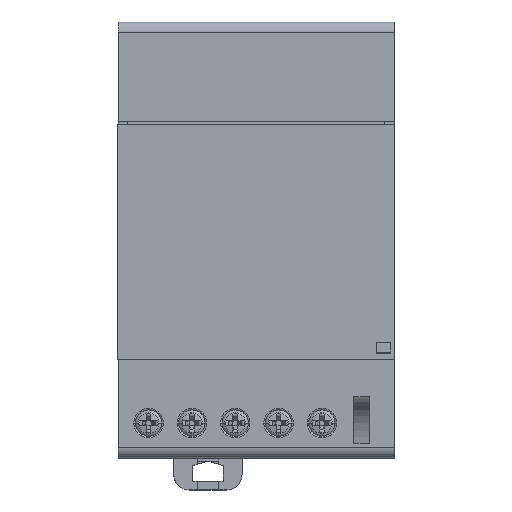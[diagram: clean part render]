
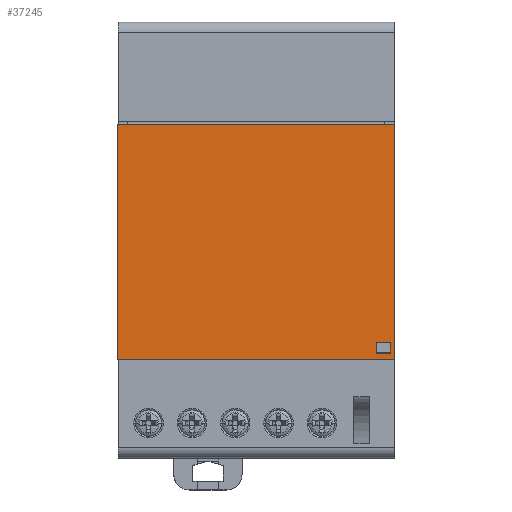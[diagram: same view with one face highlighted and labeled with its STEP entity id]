
A CAD part, top view. The second image highlights one B-rep face of the part: STEP entity #37245.
In plain terms, the highlighted planar face has unit normal (0, 0, 1).
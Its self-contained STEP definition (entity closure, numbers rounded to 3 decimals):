
#20756 = FACE_OUTER_BOUND ( 'NONE', #71305, .T. ) ;
#20758 = FACE_BOUND ( 'NONE', #70808, .T. ) ;
#20759 = PLANE ( 'NONE',  #41415 ) ;
#20768 = CARTESIAN_POINT ( 'NONE',  ( -66.047, 19.404, 36.175 ) ) ;
#20769 = DIRECTION ( 'NONE',  ( 0., 0., -1. ) ) ;
#20770 = DIRECTION ( 'NONE',  ( 0., 1., 0. ) ) ;
#22443 = VERTEX_POINT ( 'NONE', #35886 ) ;
#22524 = VERTEX_POINT ( 'NONE', #35991 ) ;
#22607 = VERTEX_POINT ( 'NONE', #36072 ) ;
#22616 = VERTEX_POINT ( 'NONE', #36081 ) ;
#22674 = VERTEX_POINT ( 'NONE', #36137 ) ;
#22761 = VERTEX_POINT ( 'NONE', #36223 ) ;
#22802 = VERTEX_POINT ( 'NONE', #36265 ) ;
#24175 = VECTOR ( 'NONE', #29303, 1000. ) ;
#24250 = VECTOR ( 'NONE', #29390, 1000. ) ;
#24276 = VECTOR ( 'NONE', #29422, 1000. ) ;
#29301 = LINE ( 'NONE', #29302, #24175 ) ;
#29302 = CARTESIAN_POINT ( 'NONE',  ( -66.047, 64.154, 36.175 ) ) ;
#29303 = DIRECTION ( 'NONE',  ( 1., 0., 0. ) ) ;
#29383 = LINE ( 'NONE', #29388, #24250 ) ;
#29388 = CARTESIAN_POINT ( 'NONE',  ( -66.047, 19.404, 36.175 ) ) ;
#29390 = DIRECTION ( 'NONE',  ( 0., -1., 0. ) ) ;
#29414 = CARTESIAN_POINT ( 'NONE',  ( -13.247, 62.254, 36.175 ) ) ;
#29418 = LINE ( 'NONE', #29414, #24276 ) ;
#29422 = DIRECTION ( 'NONE',  ( 0., 1., 0. ) ) ;
#35886 = CARTESIAN_POINT ( 'NONE',  ( -14.047, 20.604, 36.175 ) ) ;
#35991 = CARTESIAN_POINT ( 'NONE',  ( -16.747, 20.604, 36.175 ) ) ;
#36072 = CARTESIAN_POINT ( 'NONE',  ( -16.747, 22.604, 36.175 ) ) ;
#36081 = CARTESIAN_POINT ( 'NONE',  ( -66.047, 64.154, 36.175 ) ) ;
#36137 = CARTESIAN_POINT ( 'NONE',  ( -13.247, 64.154, 36.175 ) ) ;
#36223 = CARTESIAN_POINT ( 'NONE',  ( -66.047, 19.404, 36.175 ) ) ;
#36265 = CARTESIAN_POINT ( 'NONE',  ( -14.047, 22.604, 36.175 ) ) ;
#37245 = ADVANCED_FACE ( 'NONE', ( #20756, #20758 ), #20759, .F. ) ;
#41415 = AXIS2_PLACEMENT_3D ( 'NONE', #20768, #20769, #20770 ) ;
#41911 = EDGE_CURVE ( 'NONE', #22616, #22674, #29301, .T. ) ;
#41939 = EDGE_CURVE ( 'NONE', #22616, #22761, #29383, .T. ) ;
#41949 = EDGE_CURVE ( 'NONE', #55830, #22674, #29418, .T. ) ;
#55830 = VERTEX_POINT ( 'NONE', #74016 ) ;
#65950 = EDGE_CURVE ( 'NONE', #22443, #22802, #77126, .T. ) ;
#66089 = EDGE_CURVE ( 'NONE', #22607, #22524, #79859, .T. ) ;
#66102 = EDGE_CURVE ( 'NONE', #22802, #22607, #79905, .T. ) ;
#66147 = EDGE_CURVE ( 'NONE', #22761, #55830, #80040, .T. ) ;
#66223 = EDGE_CURVE ( 'NONE', #22524, #22443, #80365, .T. ) ;
#70214 = ORIENTED_EDGE ( 'NONE', *, *, #66147, .T. ) ;
#70216 = ORIENTED_EDGE ( 'NONE', *, *, #41949, .T. ) ;
#70217 = ORIENTED_EDGE ( 'NONE', *, *, #41911, .F. ) ;
#70219 = ORIENTED_EDGE ( 'NONE', *, *, #41939, .T. ) ;
#70221 = ORIENTED_EDGE ( 'NONE', *, *, #66102, .F. ) ;
#70223 = ORIENTED_EDGE ( 'NONE', *, *, #65950, .F. ) ;
#70225 = ORIENTED_EDGE ( 'NONE', *, *, #66223, .F. ) ;
#70226 = ORIENTED_EDGE ( 'NONE', *, *, #66089, .F. ) ;
#70808 = EDGE_LOOP ( 'NONE', ( #70221, #70223, #70225, #70226 ) ) ;
#71305 = EDGE_LOOP ( 'NONE', ( #70214, #70216, #70217, #70219 ) ) ;
#71922 = VECTOR ( 'NONE', #77130, 1000. ) ;
#74016 = CARTESIAN_POINT ( 'NONE',  ( -13.247, 19.404, 36.175 ) ) ;
#77126 = LINE ( 'NONE', #77128, #71922 ) ;
#77128 = CARTESIAN_POINT ( 'NONE',  ( -14.047, 22.604, 36.175 ) ) ;
#77130 = DIRECTION ( 'NONE',  ( 0., 1., 0. ) ) ;
#78397 = VECTOR ( 'NONE', #79864, 1000. ) ;
#78423 = VECTOR ( 'NONE', #79907, 1000. ) ;
#78517 = VECTOR ( 'NONE', #80060, 1000. ) ;
#78645 = VECTOR ( 'NONE', #80373, 1000. ) ;
#79859 = LINE ( 'NONE', #79862, #78397 ) ;
#79862 = CARTESIAN_POINT ( 'NONE',  ( -16.747, 20.604, 36.175 ) ) ;
#79864 = DIRECTION ( 'NONE',  ( 0., -1., 0. ) ) ;
#79905 = LINE ( 'NONE', #79906, #78423 ) ;
#79906 = CARTESIAN_POINT ( 'NONE',  ( -16.747, 22.604, 36.175 ) ) ;
#79907 = DIRECTION ( 'NONE',  ( -1., 0., 0. ) ) ;
#80040 = LINE ( 'NONE', #80050, #78517 ) ;
#80050 = CARTESIAN_POINT ( 'NONE',  ( -13.247, 19.404, 36.175 ) ) ;
#80060 = DIRECTION ( 'NONE',  ( 1., 0., 0. ) ) ;
#80356 = CARTESIAN_POINT ( 'NONE',  ( -14.047, 20.604, 36.175 ) ) ;
#80365 = LINE ( 'NONE', #80356, #78645 ) ;
#80373 = DIRECTION ( 'NONE',  ( 1., 0., 0. ) ) ;
